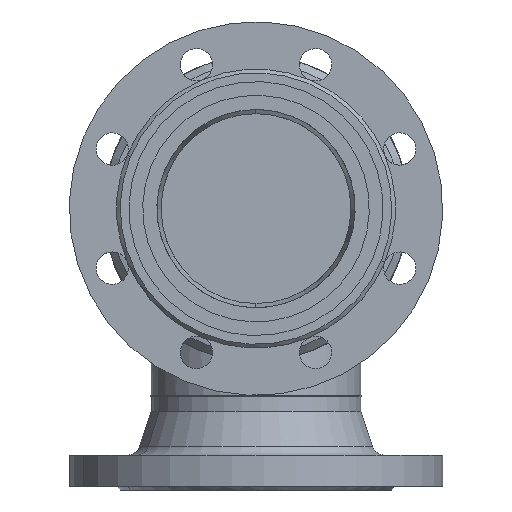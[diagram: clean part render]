
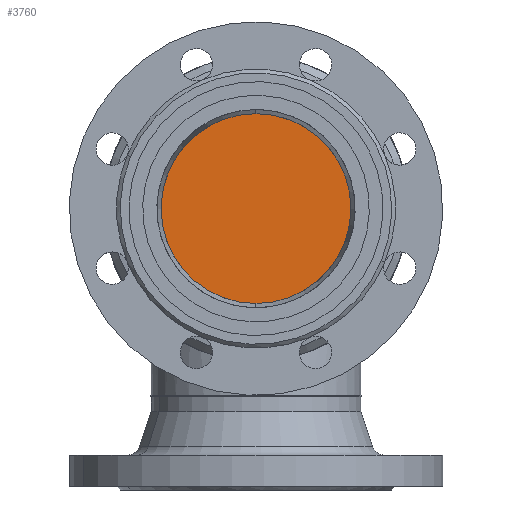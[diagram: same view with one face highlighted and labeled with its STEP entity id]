
A CAD part, front view. The second image highlights one B-rep face of the part: STEP entity #3760.
In plain terms, the highlighted planar face has unit normal (0, -1, 0) as drawn and (0, 0, 1) by its records, which use the part's own axes.
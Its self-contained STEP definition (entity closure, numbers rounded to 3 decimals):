
#3 = DIRECTION ( 'NONE',  ( 1., 0., 0. ) ) ;
#797 = CARTESIAN_POINT ( 'NONE',  ( -85., 0., 26. ) ) ;
#1059 = CARTESIAN_POINT ( 'NONE',  ( 85., 0., 26. ) ) ;
#1335 = CIRCLE ( 'NONE', #1336, 85. ) ;
#1336 = AXIS2_PLACEMENT_3D ( 'NONE', #1337, #1338, #1341 ) ;
#1337 = CARTESIAN_POINT ( 'NONE',  ( 0., 0., 26. ) ) ;
#1338 = DIRECTION ( 'NONE',  ( 0., 0., 1. ) ) ;
#1341 = DIRECTION ( 'NONE',  ( 1., 0., 0. ) ) ;
#3739 = EDGE_LOOP ( 'NONE', ( #4513, #4464 ) ) ;
#3760 = ADVANCED_FACE ( 'NONE', ( #6048 ), #6049, .T. ) ;
#3895 = EDGE_CURVE ( 'NONE', #3967, #3984, #8078, .T. ) ;
#3967 = VERTEX_POINT ( 'NONE', #797 ) ;
#3984 = VERTEX_POINT ( 'NONE', #1059 ) ;
#4009 = EDGE_CURVE ( 'NONE', #3984, #3967, #1335, .T. ) ;
#4464 = ORIENTED_EDGE ( 'NONE', *, *, #4009, .T. ) ;
#4513 = ORIENTED_EDGE ( 'NONE', *, *, #3895, .T. ) ;
#6048 = FACE_OUTER_BOUND ( 'NONE', #3739, .T. ) ;
#6049 = PLANE ( 'NONE',  #6050 ) ;
#6050 = AXIS2_PLACEMENT_3D ( 'NONE', #6051, #6052, #6055 ) ;
#6051 = CARTESIAN_POINT ( 'NONE',  ( 0., 0., 26. ) ) ;
#6052 = DIRECTION ( 'NONE',  ( 0., 0., 1. ) ) ;
#6055 = DIRECTION ( 'NONE',  ( 1., 0., 0. ) ) ;
#8078 = CIRCLE ( 'NONE', #8079, 85. ) ;
#8079 = AXIS2_PLACEMENT_3D ( 'NONE', #8080, #8081, #3 ) ;
#8080 = CARTESIAN_POINT ( 'NONE',  ( 0., 0., 26. ) ) ;
#8081 = DIRECTION ( 'NONE',  ( 0., 0., 1. ) ) ;
